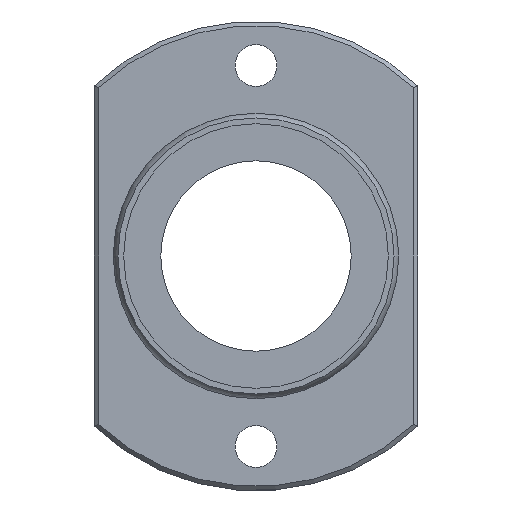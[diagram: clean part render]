
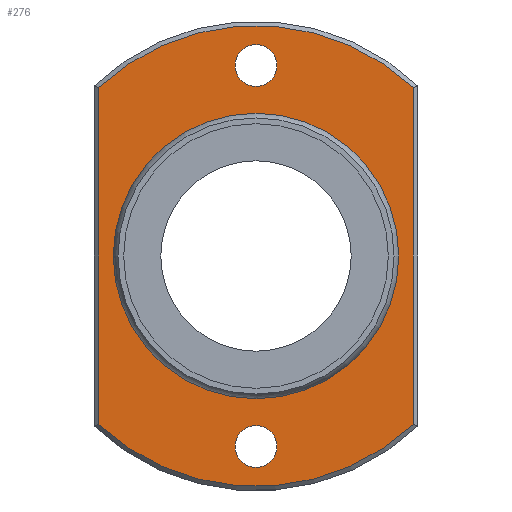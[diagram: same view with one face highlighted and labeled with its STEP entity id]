
A CAD part, left-side view. The second image highlights one B-rep face of the part: STEP entity #276.
In plain terms, the highlighted planar face has unit normal (-1, 0, 0).
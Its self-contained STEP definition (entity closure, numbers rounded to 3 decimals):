
#59=CARTESIAN_POINT('',(10.,24.8,-26.508));
#60=VERTEX_POINT('',#59);
#68=CARTESIAN_POINT('',(10.,24.8,26.508));
#69=VERTEX_POINT('',#68);
#70=CARTESIAN_POINT('',(10.,24.8,-26.508));
#71=DIRECTION('',(0.0,0.0,1.0));
#72=VECTOR('',#71,53.015);
#73=LINE('',#70,#72);
#74=EDGE_CURVE('',#60,#69,#73,.T.);
#101=CARTESIAN_POINT('',(10.,-24.8,26.508));
#102=VERTEX_POINT('',#101);
#103=CARTESIAN_POINT('',(10.,0.0,0.0));
#104=DIRECTION('',(1.0,0.0,0.0));
#105=DIRECTION('',(0.0,0.0,1.0));
#106=AXIS2_PLACEMENT_3D('',#103,#104,#105);
#107=CIRCLE('',#106,36.3);
#108=EDGE_CURVE('',#69,#102,#107,.T.);
#134=CARTESIAN_POINT('',(10.,-24.8,-26.508));
#135=VERTEX_POINT('',#134);
#136=CARTESIAN_POINT('',(10.,-24.8,26.508));
#137=DIRECTION('',(0.0,0.0,-1.0));
#138=VECTOR('',#137,53.015);
#139=LINE('',#136,#138);
#140=EDGE_CURVE('',#102,#135,#139,.T.);
#165=CARTESIAN_POINT('',(10.,0.0,0.0));
#166=DIRECTION('',(1.0,0.0,0.0));
#167=DIRECTION('',(0.0,0.0,-1.0));
#168=AXIS2_PLACEMENT_3D('',#165,#166,#167);
#169=CIRCLE('',#168,36.3);
#170=EDGE_CURVE('',#135,#60,#169,.T.);
#232=CARTESIAN_POINT('',(10.,0.0,29.563));
#233=DIRECTION('',(-1.0,0.0,0.0));
#234=DIRECTION('',(0.0,0.0,1.0));
#235=AXIS2_PLACEMENT_3D('',#232,#233,#234);
#236=PLANE('',#235);
#237=ORIENTED_EDGE('',*,*,#74,.F.);
#238=ORIENTED_EDGE('',*,*,#170,.F.);
#239=ORIENTED_EDGE('',*,*,#140,.F.);
#240=ORIENTED_EDGE('',*,*,#108,.F.);
#241=EDGE_LOOP('',(#237,#238,#239,#240));
#242=FACE_OUTER_BOUND('',#241,.T.);
#243=CARTESIAN_POINT('',(10.,0.0,22.127));
#244=VERTEX_POINT('',#243);
#245=CARTESIAN_POINT('',(10.0,0.0,0.0));
#246=DIRECTION('',(-1.0,0.0,0.0));
#247=DIRECTION('',(0.0,0.0,1.0));
#248=AXIS2_PLACEMENT_3D('',#245,#246,#247);
#249=CIRCLE('',#248,22.127);
#250=EDGE_CURVE('',#244,#244,#249,.T.);
#251=ORIENTED_EDGE('',*,*,#250,.F.);
#252=EDGE_LOOP('',(#251));
#253=FACE_BOUND('',#252,.T.);
#254=CARTESIAN_POINT('',(10.0,-3.3,-30.0));
#255=VERTEX_POINT('',#254);
#256=CARTESIAN_POINT('',(10.0,0.,-30.0));
#257=DIRECTION('',(1.0,0.0,0.0));
#258=DIRECTION('',(0.0,1.0,0.0));
#259=AXIS2_PLACEMENT_3D('',#256,#257,#258);
#260=CIRCLE('',#259,3.3);
#261=EDGE_CURVE('',#255,#255,#260,.T.);
#262=ORIENTED_EDGE('',*,*,#261,.T.);
#263=EDGE_LOOP('',(#262));
#264=FACE_BOUND('',#263,.T.);
#265=CARTESIAN_POINT('',(10.0,-3.3,30.0));
#266=VERTEX_POINT('',#265);
#267=CARTESIAN_POINT('',(10.0,0.,30.0));
#268=DIRECTION('',(1.0,0.0,0.0));
#269=DIRECTION('',(0.0,1.0,0.0));
#270=AXIS2_PLACEMENT_3D('',#267,#268,#269);
#271=CIRCLE('',#270,3.3);
#272=EDGE_CURVE('',#266,#266,#271,.T.);
#273=ORIENTED_EDGE('',*,*,#272,.T.);
#274=EDGE_LOOP('',(#273));
#275=FACE_BOUND('',#274,.T.);
#276=ADVANCED_FACE('',(#242,#253,#264,#275),#236,.T.);
